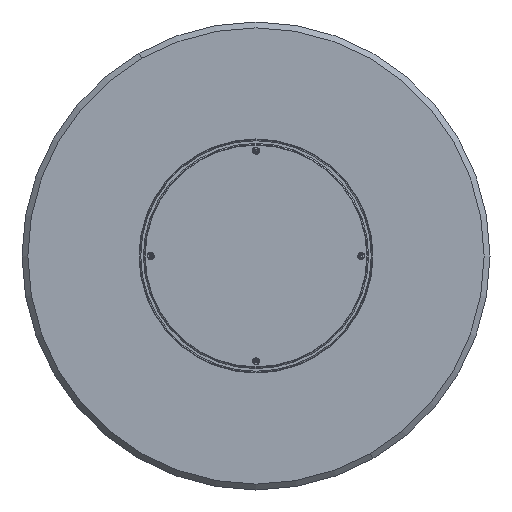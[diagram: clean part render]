
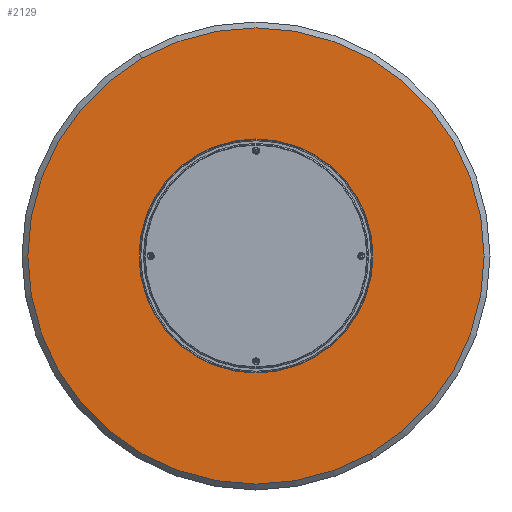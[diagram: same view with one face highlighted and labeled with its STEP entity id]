
A CAD part, front view. The second image highlights one B-rep face of the part: STEP entity #2129.
In plain terms, the highlighted planar face has unit normal (0, -1, 0).
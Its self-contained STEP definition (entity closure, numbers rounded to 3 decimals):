
#68 = CARTESIAN_POINT ( 'NONE',  ( 0., 0., 0. ) ) ;
#112 = CARTESIAN_POINT ( 'NONE',  ( 0., 0., 0. ) ) ;
#144 = ORIENTED_EDGE ( 'NONE', *, *, #2887, .F. ) ;
#286 = DIRECTION ( 'NONE',  ( 0., -1., 0. ) ) ;
#296 = DIRECTION ( 'NONE',  ( 0., 0., -1. ) ) ;
#384 = CARTESIAN_POINT ( 'NONE',  ( 0., 0., 106.297 ) ) ;
#726 = EDGE_CURVE ( 'NONE', #1905, #4011, #2513, .T. ) ;
#800 = CIRCLE ( 'NONE', #2626, 3.4 ) ;
#831 = AXIS2_PLACEMENT_3D ( 'NONE', #4358, #286, #3860 ) ;
#956 = CARTESIAN_POINT ( 'NONE',  ( 0., 0., 109.697 ) ) ;
#993 = CIRCLE ( 'NONE', #1769, 390. ) ;
#1023 = DIRECTION ( 'NONE',  ( 0., -1., 0. ) ) ;
#1301 = ORIENTED_EDGE ( 'NONE', *, *, #1388, .F. ) ;
#1340 = CARTESIAN_POINT ( 'NONE',  ( 0., 0., 3.4 ) ) ;
#1388 = EDGE_CURVE ( 'NONE', #4529, #4063, #3037, .T. ) ;
#1415 = DIRECTION ( 'NONE',  ( 0., -1., 0. ) ) ;
#1443 = DIRECTION ( 'NONE',  ( 0., -1., 0. ) ) ;
#1455 = DIRECTION ( 'NONE',  ( 0., -1., 0. ) ) ;
#1475 = DIRECTION ( 'NONE',  ( 0., 0., -1. ) ) ;
#1534 = AXIS2_PLACEMENT_3D ( 'NONE', #3747, #2893, #2983 ) ;
#1576 = ORIENTED_EDGE ( 'NONE', *, *, #726, .F. ) ;
#1629 = EDGE_CURVE ( 'NONE', #1824, #2948, #3992, .T. ) ;
#1680 = CARTESIAN_POINT ( 'NONE',  ( 0., 0., 0. ) ) ;
#1769 = AXIS2_PLACEMENT_3D ( 'NONE', #4005, #1415, #1475 ) ;
#1815 = DIRECTION ( 'NONE',  ( 0., 0., -1. ) ) ;
#1823 = AXIS2_PLACEMENT_3D ( 'NONE', #112, #3559, #1815 ) ;
#1824 = VERTEX_POINT ( 'NONE', #3656 ) ;
#1905 = VERTEX_POINT ( 'NONE', #1340 ) ;
#1906 = EDGE_LOOP ( 'NONE', ( #3426, #3770 ) ) ;
#1949 = CARTESIAN_POINT ( 'NONE',  ( -95., 0., -54.848 ) ) ;
#1987 = DIRECTION ( 'NONE',  ( 0., 0., -1. ) ) ;
#2012 = EDGE_CURVE ( 'NONE', #4728, #2515, #2872, .T. ) ;
#2023 = EDGE_LOOP ( 'NONE', ( #144, #1301 ) ) ;
#2106 = AXIS2_PLACEMENT_3D ( 'NONE', #1680, #3488, #2609 ) ;
#2129 = ADVANCED_FACE ( 'NONE', ( #3420, #5222, #2448, #4775, #2388 ), #4184, .T. ) ;
#2155 = CARTESIAN_POINT ( 'NONE',  ( 0., 0., 0. ) ) ;
#2339 = DIRECTION ( 'NONE',  ( 0., 0., -1. ) ) ;
#2343 = VERTEX_POINT ( 'NONE', #4114 ) ;
#2388 = FACE_OUTER_BOUND ( 'NONE', #1906, .T. ) ;
#2424 = EDGE_CURVE ( 'NONE', #2515, #4728, #3867, .T. ) ;
#2448 = FACE_BOUND ( 'NONE', #2644, .T. ) ;
#2471 = EDGE_LOOP ( 'NONE', ( #5759, #1576 ) ) ;
#2494 = CARTESIAN_POINT ( 'NONE',  ( -95., 0., -58.248 ) ) ;
#2513 = CIRCLE ( 'NONE', #5053, 3.4 ) ;
#2515 = VERTEX_POINT ( 'NONE', #4793 ) ;
#2609 = DIRECTION ( 'NONE',  ( 0., 0., -1. ) ) ;
#2626 = AXIS2_PLACEMENT_3D ( 'NONE', #68, #1443, #5815 ) ;
#2644 = EDGE_LOOP ( 'NONE', ( #2762, #2662 ) ) ;
#2651 = AXIS2_PLACEMENT_3D ( 'NONE', #1949, #4138, #4108 ) ;
#2662 = ORIENTED_EDGE ( 'NONE', *, *, #2862, .F. ) ;
#2762 = ORIENTED_EDGE ( 'NONE', *, *, #5014, .F. ) ;
#2775 = ORIENTED_EDGE ( 'NONE', *, *, #2424, .F. ) ;
#2789 = CIRCLE ( 'NONE', #5619, 3.4 ) ;
#2862 = EDGE_CURVE ( 'NONE', #2343, #3280, #3961, .T. ) ;
#2872 = CIRCLE ( 'NONE', #1534, 3.4 ) ;
#2887 = EDGE_CURVE ( 'NONE', #4063, #4529, #5184, .T. ) ;
#2893 = DIRECTION ( 'NONE',  ( 0., -1., 0. ) ) ;
#2924 = CARTESIAN_POINT ( 'NONE',  ( 0., 0., 109.697 ) ) ;
#2948 = VERTEX_POINT ( 'NONE', #3317 ) ;
#2983 = DIRECTION ( 'NONE',  ( 0., 0., -1. ) ) ;
#3037 = CIRCLE ( 'NONE', #831, 3.4 ) ;
#3280 = VERTEX_POINT ( 'NONE', #384 ) ;
#3285 = DIRECTION ( 'NONE',  ( 0., -1., 0. ) ) ;
#3307 = DIRECTION ( 'NONE',  ( 0., 0., -1. ) ) ;
#3317 = CARTESIAN_POINT ( 'NONE',  ( 0., 0., 390. ) ) ;
#3420 = FACE_BOUND ( 'NONE', #2023, .T. ) ;
#3426 = ORIENTED_EDGE ( 'NONE', *, *, #5393, .T. ) ;
#3488 = DIRECTION ( 'NONE',  ( 0., -1., 0. ) ) ;
#3534 = EDGE_LOOP ( 'NONE', ( #5217, #2775 ) ) ;
#3559 = DIRECTION ( 'NONE',  ( 0., -1., 0. ) ) ;
#3656 = CARTESIAN_POINT ( 'NONE',  ( 0., 0., -390. ) ) ;
#3747 = CARTESIAN_POINT ( 'NONE',  ( 95., 0., -54.848 ) ) ;
#3770 = ORIENTED_EDGE ( 'NONE', *, *, #1629, .T. ) ;
#3860 = DIRECTION ( 'NONE',  ( 0., 0., -1. ) ) ;
#3867 = CIRCLE ( 'NONE', #4523, 3.4 ) ;
#3961 = CIRCLE ( 'NONE', #4334, 3.4 ) ;
#3992 = CIRCLE ( 'NONE', #2106, 390. ) ;
#4005 = CARTESIAN_POINT ( 'NONE',  ( 0., 0., 0. ) ) ;
#4011 = VERTEX_POINT ( 'NONE', #5099 ) ;
#4063 = VERTEX_POINT ( 'NONE', #2494 ) ;
#4108 = DIRECTION ( 'NONE',  ( 0., 0., -1. ) ) ;
#4114 = CARTESIAN_POINT ( 'NONE',  ( 0., 0., 113.097 ) ) ;
#4138 = DIRECTION ( 'NONE',  ( 0., -1., 0. ) ) ;
#4184 = PLANE ( 'NONE',  #1823 ) ;
#4201 = CARTESIAN_POINT ( 'NONE',  ( 95., 0., -54.848 ) ) ;
#4334 = AXIS2_PLACEMENT_3D ( 'NONE', #956, #3285, #2339 ) ;
#4358 = CARTESIAN_POINT ( 'NONE',  ( -95., 0., -54.848 ) ) ;
#4523 = AXIS2_PLACEMENT_3D ( 'NONE', #4201, #1023, #1987 ) ;
#4529 = VERTEX_POINT ( 'NONE', #4751 ) ;
#4728 = VERTEX_POINT ( 'NONE', #5229 ) ;
#4751 = CARTESIAN_POINT ( 'NONE',  ( -95., 0., -51.448 ) ) ;
#4775 = FACE_BOUND ( 'NONE', #2471, .T. ) ;
#4793 = CARTESIAN_POINT ( 'NONE',  ( 95., 0., -51.448 ) ) ;
#4868 = DIRECTION ( 'NONE',  ( 0., -1., 0. ) ) ;
#5014 = EDGE_CURVE ( 'NONE', #3280, #2343, #2789, .T. ) ;
#5053 = AXIS2_PLACEMENT_3D ( 'NONE', #2155, #4868, #296 ) ;
#5099 = CARTESIAN_POINT ( 'NONE',  ( 0., 0., -3.4 ) ) ;
#5184 = CIRCLE ( 'NONE', #2651, 3.4 ) ;
#5217 = ORIENTED_EDGE ( 'NONE', *, *, #2012, .F. ) ;
#5222 = FACE_BOUND ( 'NONE', #3534, .T. ) ;
#5229 = CARTESIAN_POINT ( 'NONE',  ( 95., 0., -58.248 ) ) ;
#5375 = EDGE_CURVE ( 'NONE', #4011, #1905, #800, .T. ) ;
#5393 = EDGE_CURVE ( 'NONE', #2948, #1824, #993, .T. ) ;
#5619 = AXIS2_PLACEMENT_3D ( 'NONE', #2924, #1455, #3307 ) ;
#5759 = ORIENTED_EDGE ( 'NONE', *, *, #5375, .F. ) ;
#5815 = DIRECTION ( 'NONE',  ( 0., 0., -1. ) ) ;
